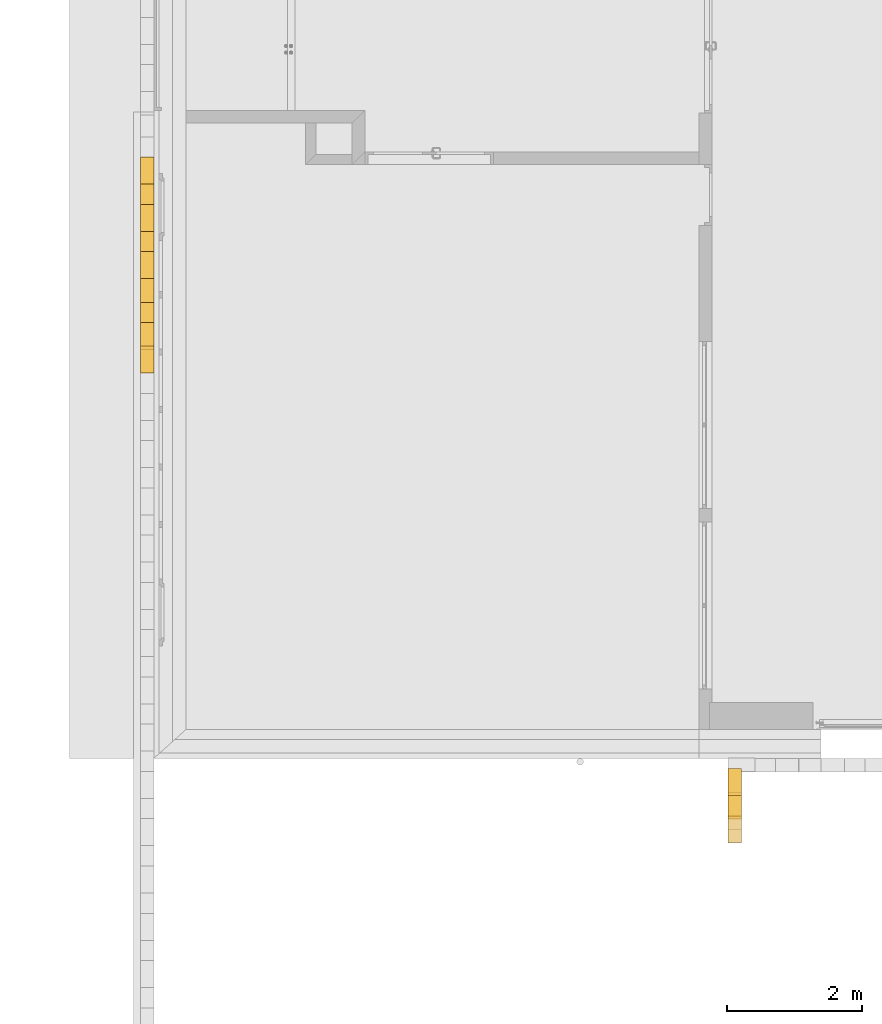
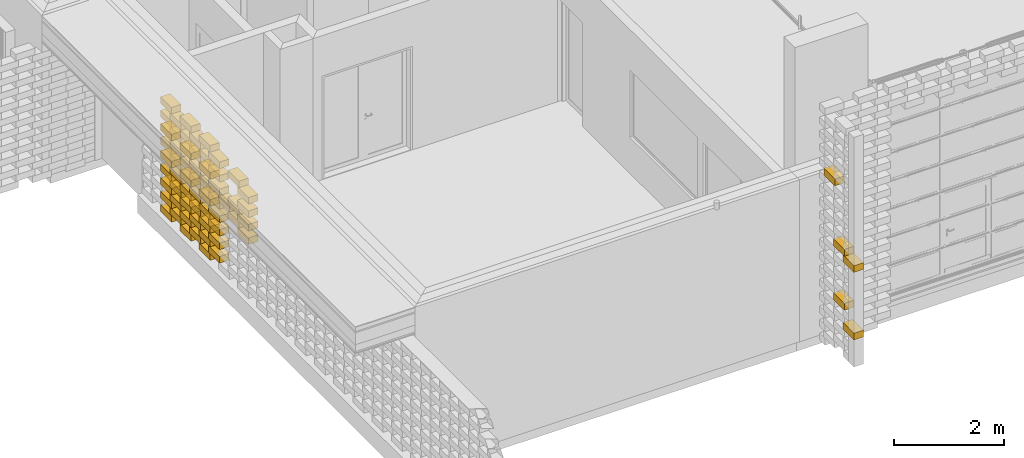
# One storey, part 49 of 62: 73 railings.
"""IFC2X3 building model written with IfcOpenShell, lengths in millimetres."""

from ifc_helpers import new_model, entity, si_unit, converted_unit, derived_unit, money_unit, direction, frame, origin_with_axes, place, context, subcontext, project, spatial, polyline, outline, extrude, material, type_object, element, save


model = new_model("IFC2X3")

# Units and contexts
model_context = context("Model", 3, precision=0.01, world=origin_with_axes(), true_north=direction((0.0, 1.0)))
body_context = subcontext(model_context, "Body", "Model", "MODEL_VIEW")
ifc_project = project(units=[si_unit("LENGTHUNIT", "METRE", prefix="MILLI"), si_unit("AREAUNIT", "SQUARE_METRE"), si_unit("VOLUMEUNIT", "CUBIC_METRE"), converted_unit("PLANEANGLEUNIT", "DEGREE", entity("IfcPlaneAngleMeasure", 0.0174532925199), si_unit("PLANEANGLEUNIT", "RADIAN"), dimensions=[0, 0, 0, 0, 0, 0, 0]), si_unit("SOLIDANGLEUNIT", "STERADIAN"), money_unit("EUR"), converted_unit("TIMEUNIT", "Year", entity("IfcTimeMeasure", 31556926.0), si_unit("TIMEUNIT", "SECOND"), dimensions=[0, 0, 1, 0, 0, 0, 0]), si_unit("MASSUNIT", "GRAM", prefix="KILO"), si_unit("THERMODYNAMICTEMPERATUREUNIT", "DEGREE_CELSIUS"), si_unit("LUMINOUSINTENSITYUNIT", "LUMEN"), si_unit("ENERGYUNIT", "JOULE", prefix="MEGA"), derived_unit("THERMALCONDUCTANCEUNIT", [(si_unit("POWERUNIT", "WATT"), 1), (si_unit("LENGTHUNIT", "METRE"), -1), (si_unit("THERMODYNAMICTEMPERATUREUNIT", "KELVIN"), -1)]), derived_unit("SPECIFICHEATCAPACITYUNIT", [(si_unit("ENERGYUNIT", "JOULE"), 1), (si_unit("MASSUNIT", "GRAM", prefix="KILO"), -1), (si_unit("THERMODYNAMICTEMPERATUREUNIT", "KELVIN"), -1)]), derived_unit("MASSDENSITYUNIT", [(si_unit("MASSUNIT", "GRAM", prefix="KILO"), 1), (si_unit("VOLUMEUNIT", "CUBIC_METRE"), -1)])], contexts=[model_context])

# Site, building, storey
site_placement = place(None, origin_with_axes())
site = spatial("IfcSite", under=ifc_project, at=site_placement, Name="KIRDE 14, ELVA", CompositionType="ELEMENT")
building_placement = place(site_placement, origin_with_axes())
building = spatial("IfcBuilding", under=site, at=building_placement, Name="PPA ja Päästeameti ühishoone", CompositionType="ELEMENT")
storey_placement = place(building_placement, origin_with_axes())
storey = spatial("IfcBuildingStorey", under=building, at=storey_placement, Name="Esimene korrus", CompositionType="ELEMENT", Elevation=0.0)

# Railings
ifc_material = material(Name="Air Space")
railing_type = type_object("IfcRailingType", Name="Air Space 200", PredefinedType="NOTDEFINED")
railing_1_placement = place(storey_placement, frame((9322.96810095, -1281.0001055, 2150.0), z_axis=(0.0, 0.0, 1.0), x_axis=(-8.73114912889e-10, -1.0, 0.0)))
element("IfcRailing", 1, at=railing_1_placement, inside=storey, type_object=railing_type, material=ifc_material, Name="plokk", PredefinedType="NOTDEFINED", context=body_context, shape_type="SweptSolid", body=[
    extrude(outline(polyline([(0.0, 0.0), (400.000000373, 0.0), (400.000000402, 200.0), (0.0, 200.0), (0.0, 0.0)])), origin_with_axes(), (0.0, 0.0, 1.0), 150.0),
])
railing_2_placement = place(storey_placement, frame((9322.96810095, -931.000105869, 2300.0), z_axis=(0.0, 0.0, 1.0), x_axis=(-4.36557458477e-10, -1.0, 0.0)))
element("IfcRailing", 2, at=railing_2_placement, inside=storey, type_object=railing_type, material=ifc_material, Name="plokk", PredefinedType="NOTDEFINED", context=body_context, shape_type="SweptSolid", body=[
    extrude(outline(polyline([(0.0, 0.0), (399.99999851, 0.0), (399.99999851, 200.0), (0.0, 200.0), (0.0, 0.0)])), origin_with_axes(), (0.0, 0.0, 1.0), 150.0),
])
railing_3_placement = place(storey_placement, frame((9326.56791544, -581.000105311, 3650.0), z_axis=(0.0, 0.0, 1.0), x_axis=(1.45519152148e-10, -1.0, 0.0)))
element("IfcRailing", 3, at=railing_3_placement, inside=storey, type_object=railing_type, material=ifc_material, Name="plokk", PredefinedType="NOTDEFINED", context=body_context, shape_type="SweptSolid", body=[
    extrude(outline(polyline([(0.0, 0.0), (400.000000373, 0.0), (400.000000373, 200.0), (0.0, 200.0), (0.0, 0.0)])), origin_with_axes(), (0.0, 0.0, 1.0), 150.0),
])
railing_4_placement = place(storey_placement, frame((9322.96810095, -1281.0001055, 650.0), z_axis=(0.0, 0.0, 1.0), x_axis=(-8.73114912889e-10, -1.0, 0.0)))
element("IfcRailing", 4, at=railing_4_placement, inside=storey, type_object=railing_type, material=ifc_material, Name="plokk", PredefinedType="NOTDEFINED", context=body_context, shape_type="SweptSolid", body=[
    extrude(outline(polyline([(0.0, 0.0), (400.000000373, 0.0), (400.000000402, 200.0), (0.0, 200.0), (0.0, 0.0)])), origin_with_axes(), (0.0, 0.0, 1.0), 150.0),
])
railing_5_placement = place(storey_placement, frame((9322.96810095, -931.000105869, 1100.0), z_axis=(0.0, 0.0, 1.0), x_axis=(-4.36557458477e-10, -1.0, 0.0)))
element("IfcRailing", 5, at=railing_5_placement, inside=storey, type_object=railing_type, material=ifc_material, Name="plokk", PredefinedType="NOTDEFINED", context=body_context, shape_type="SweptSolid", body=[
    extrude(outline(polyline([(0.0, 0.0), (399.99999851, 0.0), (399.99999851, 200.0), (0.0, 200.0), (0.0, 0.0)])), origin_with_axes(), (0.0, 0.0, 1.0), 150.0),
])
railing_6_placement = place(storey_placement, frame((620.000146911, 8476.1601595, 400.0), z_axis=(0.0, 0.0, 1.0), x_axis=(2.91038304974e-10, -1.0, 0.0)))
element("IfcRailing", 6, at=railing_6_placement, inside=storey, type_object=railing_type, material=ifc_material, Name="plokk", PredefinedType="NOTDEFINED", context=body_context, shape_type="SweptSolid", body=[
    extrude(outline(polyline([(0.0, 0.0), (399.999999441, 0.0), (399.999999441, 200.0), (0.0, 200.0), (0.0, 0.0)])), origin_with_axes(), (0.0, 0.0, 1.0), 145.0),
])
for number, where, z_axis, x_axis in (
    (7, (620.000147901, 7776.16016025, 400.0), (0.0, 0.0, 1.0), (-2.91038304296e-10, -1.0, 0.0)),
    (8, (620.000147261, 7076.16015913, 400.0), (0.0, 0.0, 1.0), (8.73114912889e-10, -1.0, 0.0)),
):
    element("IfcRailing", number, at=place(storey_placement, frame(where, z_axis=z_axis, x_axis=x_axis)), inside=storey, type_object=railing_type, material=ifc_material, Name="plokk", PredefinedType="NOTDEFINED", context=body_context, shape_type="SweptSolid", body=[
        extrude(outline(polyline([(0.0, 0.0), (400.000000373, 0.0), (400.000000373, 200.0), (0.0, 200.0), (0.0, 0.0)])), origin_with_axes(), (0.0, 0.0, 1.0), 145.0),
    ])
railing_7_placement = place(storey_placement, frame((620.000147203, 8126.16015987, 550.0), z_axis=(0.0, 0.0, 1.0), x_axis=(1.30967237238e-09, -1.0, 0.0)))
element("IfcRailing", 9, at=railing_7_placement, inside=storey, type_object=railing_type, material=ifc_material, Name="plokk", PredefinedType="NOTDEFINED", context=body_context, shape_type="SweptSolid", body=[
    extrude(outline(polyline([(0.0, 0.0), (399.999999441, 0.0), (399.999999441, 200.0), (0.0, 200.0), (0.0, 0.0)])), origin_with_axes(), (0.0, 0.0, 1.0), 145.0),
])
railing_8_placement = place(storey_placement, frame((620.000147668, 7426.16015969, 550.0), z_axis=(0.0, 0.0, 1.0), x_axis=(-8.73114912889e-10, -1.0, 0.0)))
element("IfcRailing", 10, at=railing_8_placement, inside=storey, type_object=railing_type, material=ifc_material, Name="plokk", PredefinedType="NOTDEFINED", context=body_context, shape_type="SweptSolid", body=[
    extrude(outline(polyline([(0.0, 0.0), (400.000000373, 0.0), (400.000000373, 200.0), (0.0, 200.0), (0.0, 0.0)])), origin_with_axes(), (0.0, 0.0, 1.0), 145.0),
])
railing_9_placement = place(storey_placement, frame((620.000147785, 6726.1601595, 550.0), z_axis=(0.0, 0.0, 1.0), x_axis=(0.0, -1.0, 0.0)))
element("IfcRailing", 11, at=railing_9_placement, inside=storey, type_object=railing_type, material=ifc_material, Name="plokk", PredefinedType="NOTDEFINED", context=body_context, shape_type="SweptSolid", body=[
    extrude(outline(polyline([(0.0, 0.0), (399.99999851, 0.0), (399.99999851, 200.0), (0.0, 200.0), (0.0, 0.0)])), origin_with_axes(), (0.0, 0.0, 1.0), 145.0),
])
railing_10_placement = place(storey_placement, frame((620.000146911, 8476.1601595, 700.0), z_axis=(0.0, 0.0, 1.0), x_axis=(2.91038304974e-10, -1.0, 0.0)))
element("IfcRailing", 12, at=railing_10_placement, inside=storey, type_object=railing_type, material=ifc_material, Name="plokk", PredefinedType="NOTDEFINED", context=body_context, shape_type="SweptSolid", body=[
    extrude(outline(polyline([(0.0, 0.0), (399.999999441, 0.0), (399.999999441, 200.0), (0.0, 200.0), (0.0, 0.0)])), origin_with_axes(), (0.0, 0.0, 1.0), 145.0),
])
for number, where, z_axis, x_axis in (
    (13, (620.000147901, 7776.16016025, 700.0), (0.0, 0.0, 1.0), (-2.91038304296e-10, -1.0, 0.0)),
    (14, (620.000147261, 7076.16015913, 700.0), (0.0, 0.0, 1.0), (8.73114912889e-10, -1.0, 0.0)),
):
    element("IfcRailing", number, at=place(storey_placement, frame(where, z_axis=z_axis, x_axis=x_axis)), inside=storey, type_object=railing_type, material=ifc_material, Name="plokk", PredefinedType="NOTDEFINED", context=body_context, shape_type="SweptSolid", body=[
        extrude(outline(polyline([(0.0, 0.0), (400.000000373, 0.0), (400.000000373, 200.0), (0.0, 200.0), (0.0, 0.0)])), origin_with_axes(), (0.0, 0.0, 1.0), 145.0),
    ])
railing_11_placement = place(storey_placement, frame((620.000147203, 8126.16015987, 850.0), z_axis=(0.0, 0.0, 1.0), x_axis=(1.30967237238e-09, -1.0, 0.0)))
element("IfcRailing", 15, at=railing_11_placement, inside=storey, type_object=railing_type, material=ifc_material, Name="plokk", PredefinedType="NOTDEFINED", context=body_context, shape_type="SweptSolid", body=[
    extrude(outline(polyline([(0.0, 0.0), (399.999999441, 0.0), (399.999999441, 200.0), (0.0, 200.0), (0.0, 0.0)])), origin_with_axes(), (0.0, 0.0, 1.0), 145.0),
])
railing_12_placement = place(storey_placement, frame((620.000147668, 7426.16015969, 850.0), z_axis=(0.0, 0.0, 1.0), x_axis=(-8.73114912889e-10, -1.0, 0.0)))
element("IfcRailing", 16, at=railing_12_placement, inside=storey, type_object=railing_type, material=ifc_material, Name="plokk", PredefinedType="NOTDEFINED", context=body_context, shape_type="SweptSolid", body=[
    extrude(outline(polyline([(0.0, 0.0), (400.000000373, 0.0), (400.000000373, 200.0), (0.0, 200.0), (0.0, 0.0)])), origin_with_axes(), (0.0, 0.0, 1.0), 145.0),
])
railing_13_placement = place(storey_placement, frame((620.000147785, 6726.1601595, 850.0), z_axis=(0.0, 0.0, 1.0), x_axis=(0.0, -1.0, 0.0)))
element("IfcRailing", 17, at=railing_13_placement, inside=storey, type_object=railing_type, material=ifc_material, Name="plokk", PredefinedType="NOTDEFINED", context=body_context, shape_type="SweptSolid", body=[
    extrude(outline(polyline([(0.0, 0.0), (399.99999851, 0.0), (399.99999851, 200.0), (0.0, 200.0), (0.0, 0.0)])), origin_with_axes(), (0.0, 0.0, 1.0), 145.0),
])
railing_14_placement = place(storey_placement, frame((620.000146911, 8476.1601595, 1000.0), z_axis=(0.0, 0.0, 1.0), x_axis=(2.91038304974e-10, -1.0, 0.0)))
element("IfcRailing", 18, at=railing_14_placement, inside=storey, type_object=railing_type, material=ifc_material, Name="plokk", PredefinedType="NOTDEFINED", context=body_context, shape_type="SweptSolid", body=[
    extrude(outline(polyline([(0.0, 0.0), (399.999999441, 0.0), (399.999999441, 200.0), (0.0, 200.0), (0.0, 0.0)])), origin_with_axes(), (0.0, 0.0, 1.0), 145.0),
])
for number, where, z_axis, x_axis in (
    (19, (620.000147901, 7776.16016025, 1000.0), (0.0, 0.0, 1.0), (-2.91038304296e-10, -1.0, 0.0)),
    (20, (620.000147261, 7076.16015913, 1000.0), (0.0, 0.0, 1.0), (8.73114912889e-10, -1.0, 0.0)),
):
    element("IfcRailing", number, at=place(storey_placement, frame(where, z_axis=z_axis, x_axis=x_axis)), inside=storey, type_object=railing_type, material=ifc_material, Name="plokk", PredefinedType="NOTDEFINED", context=body_context, shape_type="SweptSolid", body=[
        extrude(outline(polyline([(0.0, 0.0), (400.000000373, 0.0), (400.000000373, 200.0), (0.0, 200.0), (0.0, 0.0)])), origin_with_axes(), (0.0, 0.0, 1.0), 145.0),
    ])
railing_15_placement = place(storey_placement, frame((620.000146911, 8476.1601595, 1000.0), z_axis=(0.0, 0.0, 1.0), x_axis=(2.91038304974e-10, -1.0, 0.0)))
element("IfcRailing", 21, at=railing_15_placement, inside=storey, type_object=railing_type, material=ifc_material, Name="plokk", PredefinedType="NOTDEFINED", context=body_context, shape_type="SweptSolid", body=[
    extrude(outline(polyline([(0.0, 0.0), (399.999999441, 0.0), (399.999999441, 200.0), (0.0, 200.0), (0.0, 0.0)])), origin_with_axes(), (0.0, 0.0, 1.0), 145.0),
])
for number, where, z_axis, x_axis in (
    (22, (620.000147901, 7776.16016025, 1000.0), (0.0, 0.0, 1.0), (-2.91038304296e-10, -1.0, 0.0)),
    (23, (620.000147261, 7076.16015913, 1000.0), (0.0, 0.0, 1.0), (8.73114912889e-10, -1.0, 0.0)),
):
    element("IfcRailing", number, at=place(storey_placement, frame(where, z_axis=z_axis, x_axis=x_axis)), inside=storey, type_object=railing_type, material=ifc_material, Name="plokk", PredefinedType="NOTDEFINED", context=body_context, shape_type="SweptSolid", body=[
        extrude(outline(polyline([(0.0, 0.0), (400.000000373, 0.0), (400.000000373, 200.0), (0.0, 200.0), (0.0, 0.0)])), origin_with_axes(), (0.0, 0.0, 1.0), 145.0),
    ])
railing_16_placement = place(storey_placement, frame((620.000147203, 8126.16015987, 1150.0), z_axis=(0.0, 0.0, 1.0), x_axis=(1.30967237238e-09, -1.0, 0.0)))
element("IfcRailing", 24, at=railing_16_placement, inside=storey, type_object=railing_type, material=ifc_material, Name="plokk", PredefinedType="NOTDEFINED", context=body_context, shape_type="SweptSolid", body=[
    extrude(outline(polyline([(0.0, 0.0), (399.999999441, 0.0), (399.999999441, 200.0), (0.0, 200.0), (0.0, 0.0)])), origin_with_axes(), (0.0, 0.0, 1.0), 145.0),
])
railing_17_placement = place(storey_placement, frame((620.000147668, 7426.16015969, 1150.0), z_axis=(0.0, 0.0, 1.0), x_axis=(-8.73114912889e-10, -1.0, 0.0)))
element("IfcRailing", 25, at=railing_17_placement, inside=storey, type_object=railing_type, material=ifc_material, Name="plokk", PredefinedType="NOTDEFINED", context=body_context, shape_type="SweptSolid", body=[
    extrude(outline(polyline([(0.0, 0.0), (400.000000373, 0.0), (400.000000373, 200.0), (0.0, 200.0), (0.0, 0.0)])), origin_with_axes(), (0.0, 0.0, 1.0), 145.0),
])
railing_18_placement = place(storey_placement, frame((620.000147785, 6726.1601595, 1150.0), z_axis=(0.0, 0.0, 1.0), x_axis=(0.0, -1.0, 0.0)))
element("IfcRailing", 26, at=railing_18_placement, inside=storey, type_object=railing_type, material=ifc_material, Name="plokk", PredefinedType="NOTDEFINED", context=body_context, shape_type="SweptSolid", body=[
    extrude(outline(polyline([(0.0, 0.0), (399.99999851, 0.0), (399.99999851, 200.0), (0.0, 200.0), (0.0, 0.0)])), origin_with_axes(), (0.0, 0.0, 1.0), 145.0),
])
for number, where, z_axis, x_axis in (
    (27, (620.000147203, 8126.16015987, 1750.0), (0.0, 0.0, 1.0), (1.30967237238e-09, -1.0, 0.0)),
    (28, (620.000146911, 8476.1601595, 1300.0), (0.0, 0.0, 1.0), (2.91038304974e-10, -1.0, 0.0)),
):
    element("IfcRailing", number, at=place(storey_placement, frame(where, z_axis=z_axis, x_axis=x_axis)), inside=storey, type_object=railing_type, material=ifc_material, Name="plokk", PredefinedType="NOTDEFINED", context=body_context, shape_type="SweptSolid", body=[
        extrude(outline(polyline([(0.0, 0.0), (399.999999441, 0.0), (399.999999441, 200.0), (0.0, 200.0), (0.0, 0.0)])), origin_with_axes(), (0.0, 0.0, 1.0), 145.0),
    ])
for number, where, z_axis, x_axis in (
    (29, (620.000147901, 7776.16016025, 1300.0), (0.0, 0.0, 1.0), (-2.91038304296e-10, -1.0, 0.0)),
    (30, (620.000147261, 7076.16015913, 1300.0), (0.0, 0.0, 1.0), (8.73114912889e-10, -1.0, 0.0)),
    (31, (620.000147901, 7776.16016025, 1600.0), (0.0, 0.0, 1.0), (-2.91038304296e-10, -1.0, 0.0)),
):
    element("IfcRailing", number, at=place(storey_placement, frame(where, z_axis=z_axis, x_axis=x_axis)), inside=storey, type_object=railing_type, material=ifc_material, Name="plokk", PredefinedType="NOTDEFINED", context=body_context, shape_type="SweptSolid", body=[
        extrude(outline(polyline([(0.0, 0.0), (400.000000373, 0.0), (400.000000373, 200.0), (0.0, 200.0), (0.0, 0.0)])), origin_with_axes(), (0.0, 0.0, 1.0), 145.0),
    ])
railing_19_placement = place(storey_placement, frame((620.000147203, 8126.16015987, 1450.0), z_axis=(0.0, 0.0, 1.0), x_axis=(1.30967237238e-09, -1.0, 0.0)))
element("IfcRailing", 32, at=railing_19_placement, inside=storey, type_object=railing_type, material=ifc_material, Name="plokk", PredefinedType="NOTDEFINED", context=body_context, shape_type="SweptSolid", body=[
    extrude(outline(polyline([(0.0, 0.0), (399.999999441, 0.0), (399.999999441, 200.0), (0.0, 200.0), (0.0, 0.0)])), origin_with_axes(), (0.0, 0.0, 1.0), 145.0),
])
railing_20_placement = place(storey_placement, frame((620.000147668, 7426.16015969, 1450.0), z_axis=(0.0, 0.0, 1.0), x_axis=(-8.73114912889e-10, -1.0, 0.0)))
element("IfcRailing", 33, at=railing_20_placement, inside=storey, type_object=railing_type, material=ifc_material, Name="plokk", PredefinedType="NOTDEFINED", context=body_context, shape_type="SweptSolid", body=[
    extrude(outline(polyline([(0.0, 0.0), (400.000000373, 0.0), (400.000000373, 200.0), (0.0, 200.0), (0.0, 0.0)])), origin_with_axes(), (0.0, 0.0, 1.0), 145.0),
])
railing_21_placement = place(storey_placement, frame((620.000147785, 6726.1601595, 1450.0), z_axis=(0.0, 0.0, 1.0), x_axis=(0.0, -1.0, 0.0)))
element("IfcRailing", 34, at=railing_21_placement, inside=storey, type_object=railing_type, material=ifc_material, Name="plokk", PredefinedType="NOTDEFINED", context=body_context, shape_type="SweptSolid", body=[
    extrude(outline(polyline([(0.0, 0.0), (399.99999851, 0.0), (399.99999851, 200.0), (0.0, 200.0), (0.0, 0.0)])), origin_with_axes(), (0.0, 0.0, 1.0), 145.0),
])
railing_22_placement = place(storey_placement, frame((620.000147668, 7426.16015969, 1750.0), z_axis=(0.0, 0.0, 1.0), x_axis=(-8.73114912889e-10, -1.0, 0.0)))
element("IfcRailing", 35, at=railing_22_placement, inside=storey, type_object=railing_type, material=ifc_material, Name="plokk", PredefinedType="NOTDEFINED", context=body_context, shape_type="SweptSolid", body=[
    extrude(outline(polyline([(0.0, 0.0), (400.000000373, 0.0), (400.000000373, 200.0), (0.0, 200.0), (0.0, 0.0)])), origin_with_axes(), (0.0, 0.0, 1.0), 145.0),
])
railing_23_placement = place(storey_placement, frame((620.000146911, 8476.1601595, 1600.0), z_axis=(0.0, 0.0, 1.0), x_axis=(2.91038304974e-10, -1.0, 0.0)))
element("IfcRailing", 36, at=railing_23_placement, inside=storey, type_object=railing_type, material=ifc_material, Name="plokk", PredefinedType="NOTDEFINED", context=body_context, shape_type="SweptSolid", body=[
    extrude(outline(polyline([(0.0, 0.0), (399.999999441, 0.0), (399.999999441, 200.0), (0.0, 200.0), (0.0, 0.0)])), origin_with_axes(), (0.0, 0.0, 1.0), 145.0),
])
for number, where, z_axis, x_axis in (
    (37, (620.000147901, 7776.16016025, 1600.0), (0.0, 0.0, 1.0), (-2.91038304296e-10, -1.0, 0.0)),
    (38, (620.000147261, 7076.16015913, 1600.0), (0.0, 0.0, 1.0), (8.73114912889e-10, -1.0, 0.0)),
):
    element("IfcRailing", number, at=place(storey_placement, frame(where, z_axis=z_axis, x_axis=x_axis)), inside=storey, type_object=railing_type, material=ifc_material, Name="plokk", PredefinedType="NOTDEFINED", context=body_context, shape_type="SweptSolid", body=[
        extrude(outline(polyline([(0.0, 0.0), (400.000000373, 0.0), (400.000000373, 200.0), (0.0, 200.0), (0.0, 0.0)])), origin_with_axes(), (0.0, 0.0, 1.0), 145.0),
    ])
railing_24_placement = place(storey_placement, frame((620.000146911, 8476.1601595, 1600.0), z_axis=(0.0, 0.0, 1.0), x_axis=(2.91038304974e-10, -1.0, 0.0)))
element("IfcRailing", 39, at=railing_24_placement, inside=storey, type_object=railing_type, material=ifc_material, Name="plokk", PredefinedType="NOTDEFINED", context=body_context, shape_type="SweptSolid", body=[
    extrude(outline(polyline([(0.0, 0.0), (399.999999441, 0.0), (399.999999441, 200.0), (0.0, 200.0), (0.0, 0.0)])), origin_with_axes(), (0.0, 0.0, 1.0), 145.0),
])
for number, where, z_axis, x_axis in (
    (40, (620.000147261, 7076.16015913, 1600.0), (0.0, 0.0, 1.0), (8.73114912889e-10, -1.0, 0.0)),
    (41, (620.000147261, 7076.16015913, 2200.0), (0.0, 0.0, 1.0), (8.73114912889e-10, -1.0, 0.0)),
):
    element("IfcRailing", number, at=place(storey_placement, frame(where, z_axis=z_axis, x_axis=x_axis)), inside=storey, type_object=railing_type, material=ifc_material, Name="plokk", PredefinedType="NOTDEFINED", context=body_context, shape_type="SweptSolid", body=[
        extrude(outline(polyline([(0.0, 0.0), (400.000000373, 0.0), (400.000000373, 200.0), (0.0, 200.0), (0.0, 0.0)])), origin_with_axes(), (0.0, 0.0, 1.0), 145.0),
    ])
railing_25_placement = place(storey_placement, frame((620.000147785, 6726.1601595, 1750.0), z_axis=(0.0, 0.0, 1.0), x_axis=(0.0, -1.0, 0.0)))
element("IfcRailing", 42, at=railing_25_placement, inside=storey, type_object=railing_type, material=ifc_material, Name="plokk", PredefinedType="NOTDEFINED", context=body_context, shape_type="SweptSolid", body=[
    extrude(outline(polyline([(0.0, 0.0), (399.99999851, 0.0), (399.99999851, 200.0), (0.0, 200.0), (0.0, 0.0)])), origin_with_axes(), (0.0, 0.0, 1.0), 145.0),
])
for number, where, z_axis, x_axis in (
    (43, (620.000146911, 8476.1601595, 1900.0), (0.0, 0.0, 1.0), (2.91038304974e-10, -1.0, 0.0)),
    (44, (620.000146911, 8476.1601595, 2200.0), (0.0, 0.0, 1.0), (2.91038304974e-10, -1.0, 0.0)),
):
    element("IfcRailing", number, at=place(storey_placement, frame(where, z_axis=z_axis, x_axis=x_axis)), inside=storey, type_object=railing_type, material=ifc_material, Name="plokk", PredefinedType="NOTDEFINED", context=body_context, shape_type="SweptSolid", body=[
        extrude(outline(polyline([(0.0, 0.0), (399.999999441, 0.0), (399.999999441, 200.0), (0.0, 200.0), (0.0, 0.0)])), origin_with_axes(), (0.0, 0.0, 1.0), 145.0),
    ])
railing_26_placement = place(storey_placement, frame((620.000147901, 7776.16016025, 2200.0), z_axis=(0.0, 0.0, 1.0), x_axis=(-2.91038304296e-10, -1.0, 0.0)))
element("IfcRailing", 45, at=railing_26_placement, inside=storey, type_object=railing_type, material=ifc_material, Name="plokk", PredefinedType="NOTDEFINED", context=body_context, shape_type="SweptSolid", body=[
    extrude(outline(polyline([(0.0, 0.0), (400.000000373, 0.0), (400.000000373, 200.0), (0.0, 200.0), (0.0, 0.0)])), origin_with_axes(), (0.0, 0.0, 1.0), 145.0),
])
railing_27_placement = place(storey_placement, frame((620.000146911, 8476.1601595, 2200.0), z_axis=(0.0, 0.0, 1.0), x_axis=(2.91038304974e-10, -1.0, 0.0)))
element("IfcRailing", 46, at=railing_27_placement, inside=storey, type_object=railing_type, material=ifc_material, Name="plokk", PredefinedType="NOTDEFINED", context=body_context, shape_type="SweptSolid", body=[
    extrude(outline(polyline([(0.0, 0.0), (399.999999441, 0.0), (399.999999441, 200.0), (0.0, 200.0), (0.0, 0.0)])), origin_with_axes(), (0.0, 0.0, 1.0), 145.0),
])
for number, where, z_axis, x_axis in (
    (47, (620.000147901, 7776.16016025, 2200.0), (0.0, 0.0, 1.0), (-2.91038304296e-10, -1.0, 0.0)),
    (48, (620.000147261, 7076.16015913, 2200.0), (0.0, 0.0, 1.0), (8.73114912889e-10, -1.0, 0.0)),
):
    element("IfcRailing", number, at=place(storey_placement, frame(where, z_axis=z_axis, x_axis=x_axis)), inside=storey, type_object=railing_type, material=ifc_material, Name="plokk", PredefinedType="NOTDEFINED", context=body_context, shape_type="SweptSolid", body=[
        extrude(outline(polyline([(0.0, 0.0), (400.000000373, 0.0), (400.000000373, 200.0), (0.0, 200.0), (0.0, 0.0)])), origin_with_axes(), (0.0, 0.0, 1.0), 145.0),
    ])
railing_28_placement = place(storey_placement, frame((620.000147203, 8126.16015987, 2350.0), z_axis=(0.0, 0.0, 1.0), x_axis=(1.30967237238e-09, -1.0, 0.0)))
element("IfcRailing", 49, at=railing_28_placement, inside=storey, type_object=railing_type, material=ifc_material, Name="plokk", PredefinedType="NOTDEFINED", context=body_context, shape_type="SweptSolid", body=[
    extrude(outline(polyline([(0.0, 0.0), (399.999999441, 0.0), (399.999999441, 200.0), (0.0, 200.0), (0.0, 0.0)])), origin_with_axes(), (0.0, 0.0, 1.0), 145.0),
])
railing_29_placement = place(storey_placement, frame((620.000147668, 7426.16015969, 2350.0), z_axis=(0.0, 0.0, 1.0), x_axis=(-8.73114912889e-10, -1.0, 0.0)))
element("IfcRailing", 50, at=railing_29_placement, inside=storey, type_object=railing_type, material=ifc_material, Name="plokk", PredefinedType="NOTDEFINED", context=body_context, shape_type="SweptSolid", body=[
    extrude(outline(polyline([(0.0, 0.0), (400.000000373, 0.0), (400.000000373, 200.0), (0.0, 200.0), (0.0, 0.0)])), origin_with_axes(), (0.0, 0.0, 1.0), 145.0),
])
railing_30_placement = place(storey_placement, frame((620.000147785, 6726.1601595, 2350.0), z_axis=(0.0, 0.0, 1.0), x_axis=(0.0, -1.0, 0.0)))
element("IfcRailing", 51, at=railing_30_placement, inside=storey, type_object=railing_type, material=ifc_material, Name="plokk", PredefinedType="NOTDEFINED", context=body_context, shape_type="SweptSolid", body=[
    extrude(outline(polyline([(0.0, 0.0), (399.99999851, 0.0), (399.99999851, 200.0), (0.0, 200.0), (0.0, 0.0)])), origin_with_axes(), (0.0, 0.0, 1.0), 145.0),
])
railing_31_placement = place(storey_placement, frame((620.000146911, 8476.1601595, 2500.0), z_axis=(0.0, 0.0, 1.0), x_axis=(2.91038304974e-10, -1.0, 0.0)))
element("IfcRailing", 52, at=railing_31_placement, inside=storey, type_object=railing_type, material=ifc_material, Name="plokk", PredefinedType="NOTDEFINED", context=body_context, shape_type="SweptSolid", body=[
    extrude(outline(polyline([(0.0, 0.0), (399.999999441, 0.0), (399.999999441, 200.0), (0.0, 200.0), (0.0, 0.0)])), origin_with_axes(), (0.0, 0.0, 1.0), 145.0),
])
for number, where, z_axis, x_axis in (
    (53, (620.000147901, 7776.16016025, 2500.0), (0.0, 0.0, 1.0), (-2.91038304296e-10, -1.0, 0.0)),
    (54, (620.000147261, 7076.16015913, 2500.0), (0.0, 0.0, 1.0), (8.73114912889e-10, -1.0, 0.0)),
):
    element("IfcRailing", number, at=place(storey_placement, frame(where, z_axis=z_axis, x_axis=x_axis)), inside=storey, type_object=railing_type, material=ifc_material, Name="plokk", PredefinedType="NOTDEFINED", context=body_context, shape_type="SweptSolid", body=[
        extrude(outline(polyline([(0.0, 0.0), (400.000000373, 0.0), (400.000000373, 200.0), (0.0, 200.0), (0.0, 0.0)])), origin_with_axes(), (0.0, 0.0, 1.0), 145.0),
    ])
railing_32_placement = place(storey_placement, frame((620.000147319, 5676.16016062, 2500.0), z_axis=(0.0, 0.0, 1.0), x_axis=(-2.91038303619e-10, -1.0, 0.0)))
element("IfcRailing", 55, at=railing_32_placement, inside=storey, type_object=railing_type, material=ifc_material, Name="plokk", PredefinedType="NOTDEFINED", context=body_context, shape_type="SweptSolid", body=[
    extrude(outline(polyline([(0.0, 0.0), (400.000001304, 0.0), (400.000001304, 200.0), (0.0, 200.0), (0.0, 0.0)])), origin_with_axes(), (0.0, 0.0, 1.0), 145.0),
])
railing_33_placement = place(storey_placement, frame((620.000147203, 8126.16015987, 2650.0), z_axis=(0.0, 0.0, 1.0), x_axis=(1.30967237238e-09, -1.0, 0.0)))
element("IfcRailing", 56, at=railing_33_placement, inside=storey, type_object=railing_type, material=ifc_material, Name="plokk", PredefinedType="NOTDEFINED", context=body_context, shape_type="SweptSolid", body=[
    extrude(outline(polyline([(0.0, 0.0), (399.999999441, 0.0), (399.999999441, 200.0), (0.0, 200.0), (0.0, 0.0)])), origin_with_axes(), (0.0, 0.0, 1.0), 145.0),
])
railing_34_placement = place(storey_placement, frame((620.000147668, 7426.16015969, 2650.0), z_axis=(0.0, 0.0, 1.0), x_axis=(-8.73114912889e-10, -1.0, 0.0)))
element("IfcRailing", 57, at=railing_34_placement, inside=storey, type_object=railing_type, material=ifc_material, Name="plokk", PredefinedType="NOTDEFINED", context=body_context, shape_type="SweptSolid", body=[
    extrude(outline(polyline([(0.0, 0.0), (400.000000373, 0.0), (400.000000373, 200.0), (0.0, 200.0), (0.0, 0.0)])), origin_with_axes(), (0.0, 0.0, 1.0), 145.0),
])
railing_35_placement = place(storey_placement, frame((620.000147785, 6726.1601595, 2650.0), z_axis=(0.0, 0.0, 1.0), x_axis=(0.0, -1.0, 0.0)))
element("IfcRailing", 58, at=railing_35_placement, inside=storey, type_object=railing_type, material=ifc_material, Name="plokk", PredefinedType="NOTDEFINED", context=body_context, shape_type="SweptSolid", body=[
    extrude(outline(polyline([(0.0, 0.0), (399.99999851, 0.0), (399.99999851, 200.0), (0.0, 200.0), (0.0, 0.0)])), origin_with_axes(), (0.0, 0.0, 1.0), 145.0),
])
railing_36_placement = place(storey_placement, frame((620.000147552, 6026.16016025, 2650.0), z_axis=(0.0, 0.0, 1.0), x_axis=(7.27595760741e-10, -1.0, 0.0)))
element("IfcRailing", 59, at=railing_36_placement, inside=storey, type_object=railing_type, material=ifc_material, Name="plokk", PredefinedType="NOTDEFINED", context=body_context, shape_type="SweptSolid", body=[
    extrude(outline(polyline([(0.0, 0.0), (400.000000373, 0.0), (400.000000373, 200.0), (0.0, 200.0), (0.0, 0.0)])), origin_with_axes(), (0.0, 0.0, 1.0), 145.0),
])
railing_37_placement = place(storey_placement, frame((620.000146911, 8476.1601595, 2800.0), z_axis=(0.0, 0.0, 1.0), x_axis=(2.91038304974e-10, -1.0, 0.0)))
element("IfcRailing", 60, at=railing_37_placement, inside=storey, type_object=railing_type, material=ifc_material, Name="plokk", PredefinedType="NOTDEFINED", context=body_context, shape_type="SweptSolid", body=[
    extrude(outline(polyline([(0.0, 0.0), (399.999999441, 0.0), (399.999999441, 200.0), (0.0, 200.0), (0.0, 0.0)])), origin_with_axes(), (0.0, 0.0, 1.0), 145.0),
])
for number, where, z_axis, x_axis in (
    (61, (620.000147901, 7776.16016025, 2800.0), (0.0, 0.0, 1.0), (-2.91038304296e-10, -1.0, 0.0)),
    (62, (620.000147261, 7076.16015913, 2800.0), (0.0, 0.0, 1.0), (8.73114912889e-10, -1.0, 0.0)),
):
    element("IfcRailing", number, at=place(storey_placement, frame(where, z_axis=z_axis, x_axis=x_axis)), inside=storey, type_object=railing_type, material=ifc_material, Name="plokk", PredefinedType="NOTDEFINED", context=body_context, shape_type="SweptSolid", body=[
        extrude(outline(polyline([(0.0, 0.0), (400.000000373, 0.0), (400.000000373, 200.0), (0.0, 200.0), (0.0, 0.0)])), origin_with_axes(), (0.0, 0.0, 1.0), 145.0),
    ])
railing_38_placement = place(storey_placement, frame((620.000147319, 5676.16016062, 1600.0), z_axis=(0.0, 0.0, 1.0), x_axis=(-2.91038303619e-10, -1.0, 0.0)))
element("IfcRailing", 63, at=railing_38_placement, inside=storey, type_object=railing_type, material=ifc_material, Name="plokk", PredefinedType="NOTDEFINED", context=body_context, shape_type="SweptSolid", body=[
    extrude(outline(polyline([(0.0, 0.0), (400.000001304, 0.0), (400.000001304, 200.0), (0.0, 200.0), (0.0, 0.0)])), origin_with_axes(), (0.0, 0.0, 1.0), 145.0),
])
railing_39_placement = place(storey_placement, frame((620.000147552, 6026.16016025, 1750.0), z_axis=(0.0, 0.0, 1.0), x_axis=(7.27595760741e-10, -1.0, 0.0)))
element("IfcRailing", 64, at=railing_39_placement, inside=storey, type_object=railing_type, material=ifc_material, Name="plokk", PredefinedType="NOTDEFINED", context=body_context, shape_type="SweptSolid", body=[
    extrude(outline(polyline([(0.0, 0.0), (400.000000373, 0.0), (400.000000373, 200.0), (0.0, 200.0), (0.0, 0.0)])), origin_with_axes(), (0.0, 0.0, 1.0), 145.0),
])
railing_40_placement = place(storey_placement, frame((620.000148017, 6376.16015987, 1900.0), z_axis=(0.0, 0.0, 1.0), x_axis=(1.30967237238e-09, -1.0, 0.0)))
element("IfcRailing", 65, at=railing_40_placement, inside=storey, type_object=railing_type, material=ifc_material, Name="plokk", PredefinedType="NOTDEFINED", context=body_context, shape_type="SweptSolid", body=[
    extrude(outline(polyline([(0.0, 0.0), (399.999999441, 0.0), (399.999999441, 200.0), (0.0, 200.0), (0.0, 0.0)])), origin_with_axes(), (0.0, 0.0, 1.0), 145.0),
])
railing_41_placement = place(storey_placement, frame((620.000147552, 6026.16016025, 2050.0), z_axis=(0.0, 0.0, 1.0), x_axis=(7.27595760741e-10, -1.0, 0.0)))
element("IfcRailing", 66, at=railing_41_placement, inside=storey, type_object=railing_type, material=ifc_material, Name="plokk", PredefinedType="NOTDEFINED", context=body_context, shape_type="SweptSolid", body=[
    extrude(outline(polyline([(0.0, 0.0), (400.000000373, 0.0), (400.000000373, 200.0), (0.0, 200.0), (0.0, 0.0)])), origin_with_axes(), (0.0, 0.0, 1.0), 145.0),
])
railing_42_placement = place(storey_placement, frame((620.000147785, 6726.1601595, 2050.0), z_axis=(0.0, 0.0, 1.0), x_axis=(0.0, -1.0, 0.0)))
element("IfcRailing", 67, at=railing_42_placement, inside=storey, type_object=railing_type, material=ifc_material, Name="plokk", PredefinedType="NOTDEFINED", context=body_context, shape_type="SweptSolid", body=[
    extrude(outline(polyline([(0.0, 0.0), (399.99999851, 0.0), (399.99999851, 200.0), (0.0, 200.0), (0.0, 0.0)])), origin_with_axes(), (0.0, 0.0, 1.0), 145.0),
])
railing_43_placement = place(storey_placement, frame((620.000147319, 5676.16016062, 1900.0), z_axis=(0.0, 0.0, 1.0), x_axis=(-2.91038303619e-10, -1.0, 0.0)))
element("IfcRailing", 68, at=railing_43_placement, inside=storey, type_object=railing_type, material=ifc_material, Name="plokk", PredefinedType="NOTDEFINED", context=body_context, shape_type="SweptSolid", body=[
    extrude(outline(polyline([(0.0, 0.0), (400.000001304, 0.0), (400.000001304, 200.0), (0.0, 200.0), (0.0, 0.0)])), origin_with_axes(), (0.0, 0.0, 1.0), 145.0),
])
railing_44_placement = place(storey_placement, frame((620.000147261, 7076.16015913, 1900.0), z_axis=(0.0, 0.0, 1.0), x_axis=(8.73114912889e-10, -1.0, 0.0)))
element("IfcRailing", 69, at=railing_44_placement, inside=storey, type_object=railing_type, material=ifc_material, Name="plokk", PredefinedType="NOTDEFINED", context=body_context, shape_type="SweptSolid", body=[
    extrude(outline(polyline([(0.0, 0.0), (400.000000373, 0.0), (400.000000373, 200.0), (0.0, 200.0), (0.0, 0.0)])), origin_with_axes(), (0.0, 0.0, 1.0), 145.0),
])
railing_45_placement = place(storey_placement, frame((620.000147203, 8126.16015987, 2050.0), z_axis=(0.0, 0.0, 1.0), x_axis=(1.30967237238e-09, -1.0, 0.0)))
element("IfcRailing", 70, at=railing_45_placement, inside=storey, type_object=railing_type, material=ifc_material, Name="plokk", PredefinedType="NOTDEFINED", context=body_context, shape_type="SweptSolid", body=[
    extrude(outline(polyline([(0.0, 0.0), (399.999999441, 0.0), (399.999999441, 200.0), (0.0, 200.0), (0.0, 0.0)])), origin_with_axes(), (0.0, 0.0, 1.0), 145.0),
])
railing_46_placement = place(storey_placement, frame((620.000147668, 7426.16015969, 2050.0), z_axis=(0.0, 0.0, 1.0), x_axis=(-8.73114912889e-10, -1.0, 0.0)))
element("IfcRailing", 71, at=railing_46_placement, inside=storey, type_object=railing_type, material=ifc_material, Name="plokk", PredefinedType="NOTDEFINED", context=body_context, shape_type="SweptSolid", body=[
    extrude(outline(polyline([(0.0, 0.0), (400.000000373, 0.0), (400.000000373, 200.0), (0.0, 200.0), (0.0, 0.0)])), origin_with_axes(), (0.0, 0.0, 1.0), 145.0),
])
railing_47_placement = place(storey_placement, frame((620.000147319, 5676.16016062, 2200.0), z_axis=(0.0, 0.0, 1.0), x_axis=(-2.91038303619e-10, -1.0, 0.0)))
element("IfcRailing", 72, at=railing_47_placement, inside=storey, type_object=railing_type, material=ifc_material, Name="plokk", PredefinedType="NOTDEFINED", context=body_context, shape_type="SweptSolid", body=[
    extrude(outline(polyline([(0.0, 0.0), (400.000001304, 0.0), (400.000001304, 200.0), (0.0, 200.0), (0.0, 0.0)])), origin_with_axes(), (0.0, 0.0, 1.0), 145.0),
])
railing_48_placement = place(storey_placement, frame((620.000147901, 7776.16016025, 1900.0), z_axis=(0.0, 0.0, 1.0), x_axis=(-2.91038304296e-10, -1.0, 0.0)))
element("IfcRailing", 73, at=railing_48_placement, inside=storey, type_object=railing_type, material=ifc_material, Name="plokk", PredefinedType="NOTDEFINED", context=body_context, shape_type="SweptSolid", body=[
    extrude(outline(polyline([(0.0, 0.0), (400.000000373, 0.0), (400.000000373, 200.0), (0.0, 200.0), (0.0, 0.0)])), origin_with_axes(), (0.0, 0.0, 1.0), 145.0),
])

save(model, "model.ifc")
